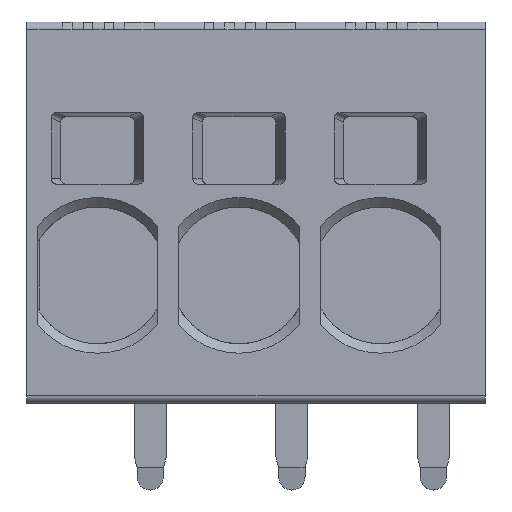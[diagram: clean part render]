
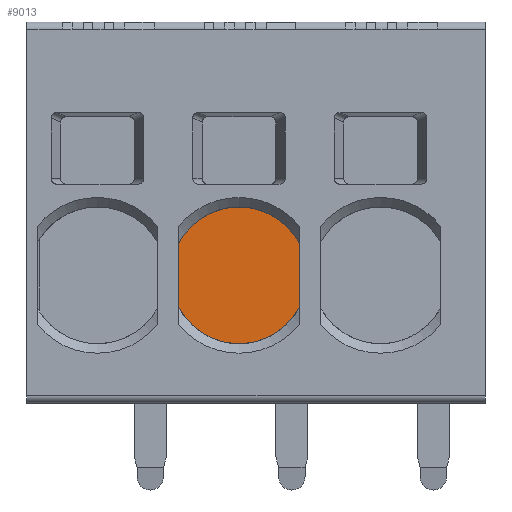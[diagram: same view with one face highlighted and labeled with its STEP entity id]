
A CAD part, left-side view. The second image highlights one B-rep face of the part: STEP entity #9013.
In plain terms, the highlighted planar face has unit normal (-1, 0, 0).
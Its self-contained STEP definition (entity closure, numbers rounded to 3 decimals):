
#5769=DIRECTION('',(0.,0.,-1.));
#5770=VECTOR('',#5769,3.253);
#5771=CARTESIAN_POINT('',(-11.1,14.45,-1.898));
#5772=LINE('',#5771,#5770);
#5787=CARTESIAN_POINT('',(-11.1,14.15,-5.152));
#5788=DIRECTION('',(1.,0.,0.));
#5789=DIRECTION('',(0.,0.872,-0.489));
#5790=AXIS2_PLACEMENT_3D('',#5787,#5788,#5789);
#5800=CARTESIAN_POINT('',(-11.1,11.25,-3.525));
#5801=DIRECTION('',(-1.,0.,0.));
#5802=DIRECTION('',(0.,0.872,-0.489));
#5803=AXIS2_PLACEMENT_3D('',#5800,#5801,#5802);
#5809=CARTESIAN_POINT('',(-11.1,8.35,-5.152));
#5810=DIRECTION('',(1.,0.,0.));
#5811=DIRECTION('',(0.,-1.,0.));
#5812=AXIS2_PLACEMENT_3D('',#5809,#5810,#5811);
#5818=DIRECTION('',(0.,0.,1.));
#5819=VECTOR('',#5818,3.253);
#5820=CARTESIAN_POINT('',(-11.1,8.05,-5.152));
#5821=LINE('',#5820,#5819);
#5836=CARTESIAN_POINT('',(-11.1,8.35,-1.898));
#5837=DIRECTION('',(1.,0.,0.));
#5838=DIRECTION('',(0.,-0.872,0.489));
#5839=AXIS2_PLACEMENT_3D('',#5836,#5837,#5838);
#5849=CARTESIAN_POINT('',(-11.1,11.25,-3.525));
#5850=DIRECTION('',(-1.,0.,0.));
#5851=DIRECTION('',(0.,-0.872,0.489));
#5852=AXIS2_PLACEMENT_3D('',#5849,#5850,#5851);
#5858=CARTESIAN_POINT('',(-11.1,14.15,-1.898));
#5859=DIRECTION('',(1.,0.,0.));
#5860=DIRECTION('',(0.,1.,0.));
#5861=AXIS2_PLACEMENT_3D('',#5858,#5859,#5860);
#8754=CARTESIAN_POINT('',(-11.1,8.088,-1.752));
#8755=CARTESIAN_POINT('',(-11.1,14.412,-1.752));
#8756=VERTEX_POINT('',#8754);
#8757=VERTEX_POINT('',#8755);
#8758=CARTESIAN_POINT('',(-11.1,8.05,-1.898));
#8759=VERTEX_POINT('',#8758);
#8760=CARTESIAN_POINT('',(-11.1,14.412,-5.298));
#8761=CARTESIAN_POINT('',(-11.1,8.088,-5.298));
#8762=VERTEX_POINT('',#8760);
#8763=VERTEX_POINT('',#8761);
#8764=CARTESIAN_POINT('',(-11.1,8.05,-5.152));
#8765=VERTEX_POINT('',#8764);
#8766=CARTESIAN_POINT('',(-11.1,14.45,-1.898));
#8767=VERTEX_POINT('',#8766);
#8768=CARTESIAN_POINT('',(-11.1,14.45,-5.152));
#8769=VERTEX_POINT('',#8768);
#8990=CARTESIAN_POINT('',(-11.1,21.8,-9.3));
#8991=DIRECTION('',(-1.,0.,0.));
#8992=DIRECTION('',(0.,0.,1.));
#8993=AXIS2_PLACEMENT_3D('',#8990,#8991,#8992);
#8994=PLANE('',#8993);
#8996=ORIENTED_EDGE('',*,*,#8995,.F.);
#8998=ORIENTED_EDGE('',*,*,#8997,.T.);
#9000=ORIENTED_EDGE('',*,*,#8999,.F.);
#9002=ORIENTED_EDGE('',*,*,#9001,.T.);
#9004=ORIENTED_EDGE('',*,*,#9003,.F.);
#9006=ORIENTED_EDGE('',*,*,#9005,.T.);
#9008=ORIENTED_EDGE('',*,*,#9007,.F.);
#9010=ORIENTED_EDGE('',*,*,#9009,.T.);
#9011=EDGE_LOOP('',(#8996,#8998,#9000,#9002,#9004,#9006,#9008,#9010));
#9012=FACE_OUTER_BOUND('',#9011,.F.);
#9013=ADVANCED_FACE('',(#9012),#8994,.T.);
#5791=CIRCLE('',#5790,0.3);
#5804=CIRCLE('',#5803,3.625);
#5813=CIRCLE('',#5812,0.3);
#5840=CIRCLE('',#5839,0.3);
#5853=CIRCLE('',#5852,3.625);
#5862=CIRCLE('',#5861,0.3);
#8995=EDGE_CURVE('',#8756,#8757,#5853,.T.);
#8997=EDGE_CURVE('',#8756,#8759,#5840,.T.);
#8999=EDGE_CURVE('',#8765,#8759,#5821,.T.);
#9001=EDGE_CURVE('',#8765,#8763,#5813,.T.);
#9003=EDGE_CURVE('',#8762,#8763,#5804,.T.);
#9005=EDGE_CURVE('',#8762,#8769,#5791,.T.);
#9007=EDGE_CURVE('',#8767,#8769,#5772,.T.);
#9009=EDGE_CURVE('',#8767,#8757,#5862,.T.);
